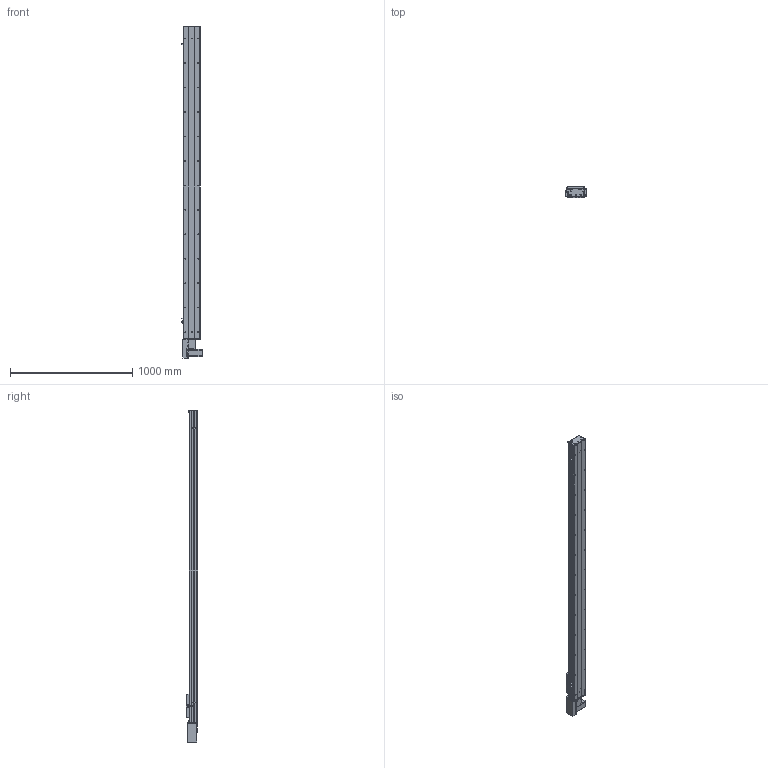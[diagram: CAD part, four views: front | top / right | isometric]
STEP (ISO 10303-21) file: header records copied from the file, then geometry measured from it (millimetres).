
FILE_DESCRIPTION (( 'STEP AP203' ), '1' );
FILE_NAME ('Y135CB-D90-S2250-BR-P400W.STEP', '2020-02-18T02:59:26', ( '微软用户' ), ( '微软中国' ), 'SwSTEP 2.0', 'SolidWorks 2017', '' );
FILE_SCHEMA (( 'CONFIG_CONTROL_DESIGN' ));
Length unit declared in the file: millimetre
Products named in the file (18): C-詩湍揤踡え-陔; 35CB---喘謫眊楊擘啣; 135CB--詩湍-CE; Y10B-耜蚾蟀諉啣----; Y100-135俋离換覜ん--; Y俋欶BR----; Y135C-陔俋离換覜結え-; 0B-埴倛裔啣; 5C--俋欶; 0B-源倛裔啣; C-雄赽釱--; 0B-萇儂楊擘啣; Y10B--々湍喘謫眊--666; san松下电机400不带刹车----; Y135CB-耜裔; Y135CB-D90-S2250-BR-P400W; 5CB --掛极耜裔啣-; 135CB---遴掛极.-
Assembly tree (21 placements, depth 2):
  Y135CB-D90-S2250-BR-P400W
    Y135CB-耜裔
    135CB---遴掛极.-
    35CB---喘謫眊楊擘啣
    Y10B-耜蚾蟀諉啣----
    Y俋欶BR----
    0B-埴倛裔啣
    0B-源倛裔啣
    0B-萇儂楊擘啣
    san松下电机400不带刹车----
    5CB --掛极耜裔啣-  x2
    C-詩湍揤踡え-陔  x2
    135CB--詩湍-CE
    Y100-135俋离換覜ん--  x3
    Y135C-陔俋离換覜結え-
    5C--俋欶
    C-雄赽釱--
    Y10B--々湍喘謫眊--666
Bounding box: 167.5 x 91 x 2714.5 mm (x, y, z)
Volume: 7633498.3 mm3; surface area: 3020452.4 mm2
Topology: 21 solids, 21 shells, 969 faces, 2635 edges, 1746 vertices
Faces by surface type: cylinder 495, plane 458, cone 16
Entity records: 30553 total; most frequent: CARTESIAN_POINT 5076, DIRECTION 5075, ORIENTED_EDGE 4746, EDGE_CURVE 2373, AXIS2_PLACEMENT_3D 1857, VERTEX_POINT 1574, LINE 1361, VECTOR 1361
